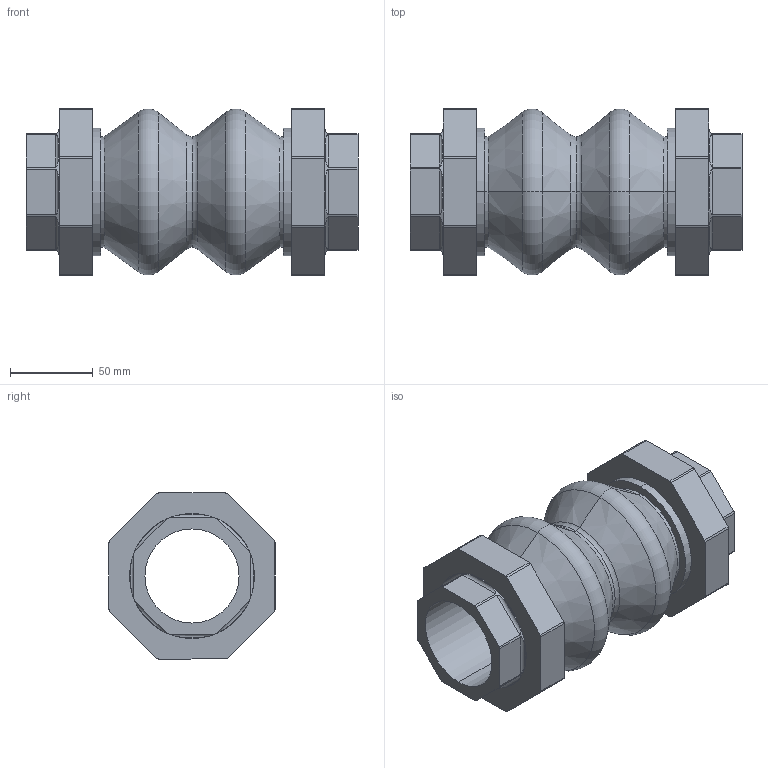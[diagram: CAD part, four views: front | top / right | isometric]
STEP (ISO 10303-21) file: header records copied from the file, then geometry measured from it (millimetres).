
FILE_DESCRIPTION (( 'STEP AP203' ), '1' );
FILE_NAME ('T8_DN050.STEP', '2012-10-31T13:29:51', ( 'luca.saino' ), ( 'Hewlett-Packard Company' ), 'SwSTEP 2.0', 'SolidWorks 2012', '' );
FILE_SCHEMA (( 'CONFIG_CONTROL_DESIGN' ));
Length unit declared in the file: millimetre
Products named in the file (1): T8_DN050
Bounding box: 200 x 100 x 100 mm (x, y, z)
Volume: 474562.5 mm3; surface area: 126060.7 mm2
Topology: 1 solids, 1 shells, 140 faces, 356 edges, 224 vertices
Faces by surface type: plane 56, cylinder 48, torus 20, cone 16
Entity records: 4815 total; most frequent: CARTESIAN_POINT 1291, DIRECTION 754, ORIENTED_EDGE 712, EDGE_CURVE 356, AXIS2_PLACEMENT_3D 289, VERTEX_POINT 224, VECTOR 176, LINE 176
